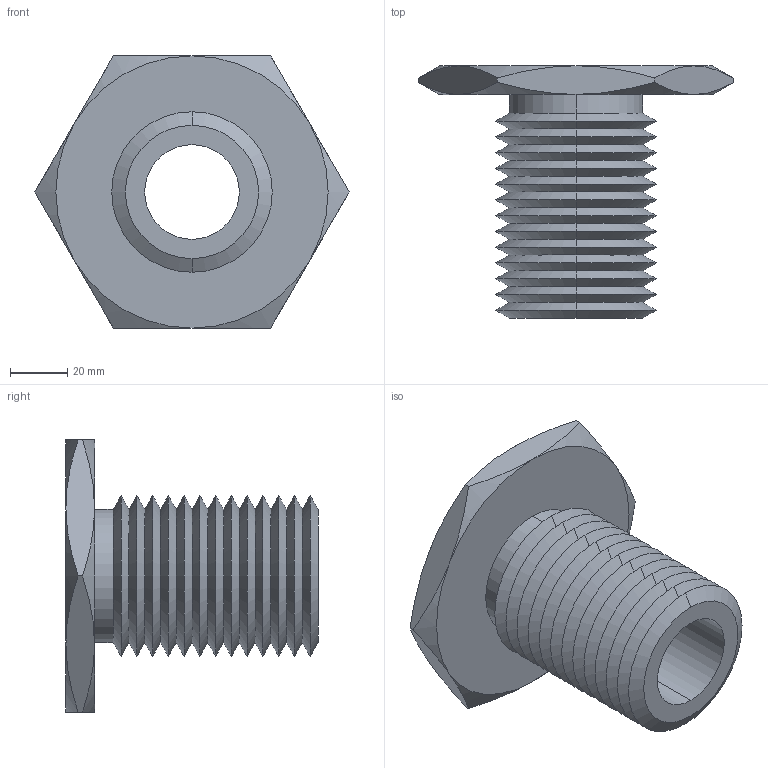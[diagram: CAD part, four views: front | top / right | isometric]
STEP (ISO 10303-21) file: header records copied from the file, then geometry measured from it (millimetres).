
FILE_DESCRIPTION (( 'STEP AP203' ), '1' );
FILE_NAME ('63302.W0056_M33x3,5.step', '2013-12-08T11:22:09', ( 'User' ), ( '' ), 'SwSTEP 2.0', 'SolidWorks 2009', '' );
FILE_SCHEMA (( 'CONFIG_CONTROL_DESIGN' ));
Length unit declared in the file: millimetre
Products named in the file (1): 63302.W0056_M33x3,5
Bounding box: 109.7 x 88 x 95 mm (x, y, z)
Volume: 159223.7 mm3; surface area: 49373 mm2
Topology: 1 solids, 1 shells, 79 faces, 162 edges, 86 vertices
Faces by surface type: cone 66, plane 9, cylinder 4
Entity records: 2271 total; most frequent: CARTESIAN_POINT 544, DIRECTION 372, ORIENTED_EDGE 324, EDGE_CURVE 162, AXIS2_PLACEMENT_3D 154, VERTEX_POINT 86, EDGE_LOOP 82, ADVANCED_FACE 79
